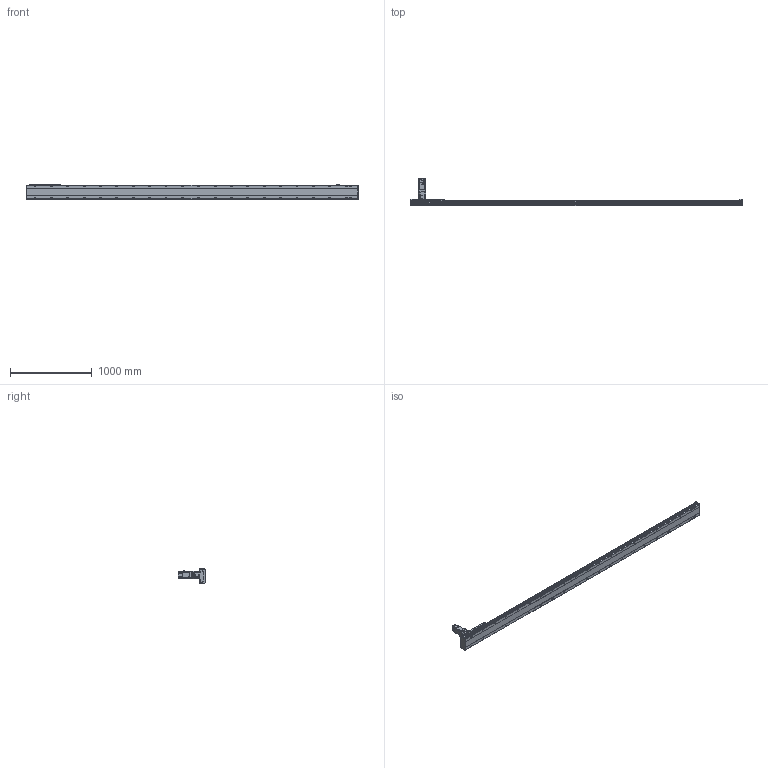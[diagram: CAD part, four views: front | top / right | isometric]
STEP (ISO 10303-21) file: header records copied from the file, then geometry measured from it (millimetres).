
FILE_DESCRIPTION(/* description */ ('STEP AP203'),/* implementation_level */ '2;1');
FILE_NAME(/* name */ 'SHS17A-L13-S3600-BC-T75-C1-N(0)',/* time_stamp */ '2023-03-27T08:58:45+02:00',/* author */ ('License CC BY-ND 4.0'),/* organization */ ('CADENAS'),/* preprocessor_version */ 'ST-DEVELOPER v19.3',/* originating_system */ 'PARTsolutions',/* authorisation */ ' ');
FILE_SCHEMA (('CONFIG_CONTROL_DESIGN'));
Length unit declared in the file: millimetre
Products named in the file (7): SHS17A-L13-S3600-BC-T75-C1-N(0); PSC140-sensor; SHS17A-S3600(0)_body2; T75-p1; SHS17A-S3600_body3; SHS17A-S3600-C1(0)_slider; SHS17A-S3600-C1(0)_body
Assembly tree (13 placements, depth 2):
  SHS17A-L13-S3600-BC-T75-C1-N(0)
    PSC140-sensor  x3
    SHS17A-S3600(0)_body2  x6
    T75-p1
    SHS17A-S3600_body3
    SHS17A-S3600-C1(0)_slider
    SHS17A-S3600-C1(0)_body
Bounding box: 4054 x 333.8 x 193.4 mm (x, y, z)
Volume: 27905736.3 mm3; surface area: 3208503.6 mm2
Topology: 13 solids, 13 shells, 2328 faces, 5936 edges, 3865 vertices
Faces by surface type: plane 1442, cylinder 787, cone 96, torus 3
Full cylindrical faces by diameter (mm): 2.8 x3, 4.134 x24, 4.5 x2, 4.6 x3, 4.917 x15, 5.5 x48, 6 x7, 6.5 x24, 6.647 x50, 6.8 x9, 8 x3, 8.5 x42, 10 x28, 11 x4, 14 x42, 22 x1, 24 x1, 24.2 x1, 28 x1, 28.2 x1, 28.8 x1, 29.8 x1, 48.542 x1, 68 x1, 70 x1, 78 x1, 80 x2
Entity records: 46710 total; most frequent: CARTESIAN_POINT 9318, DIRECTION 7573, ORIENTED_EDGE 7332, EDGE_CURVE 3666, AXIS2_PLACEMENT_3D 2700, VERTEX_POINT 2581, EDGE_LOOP 2193, FACE_BOUND 2193
